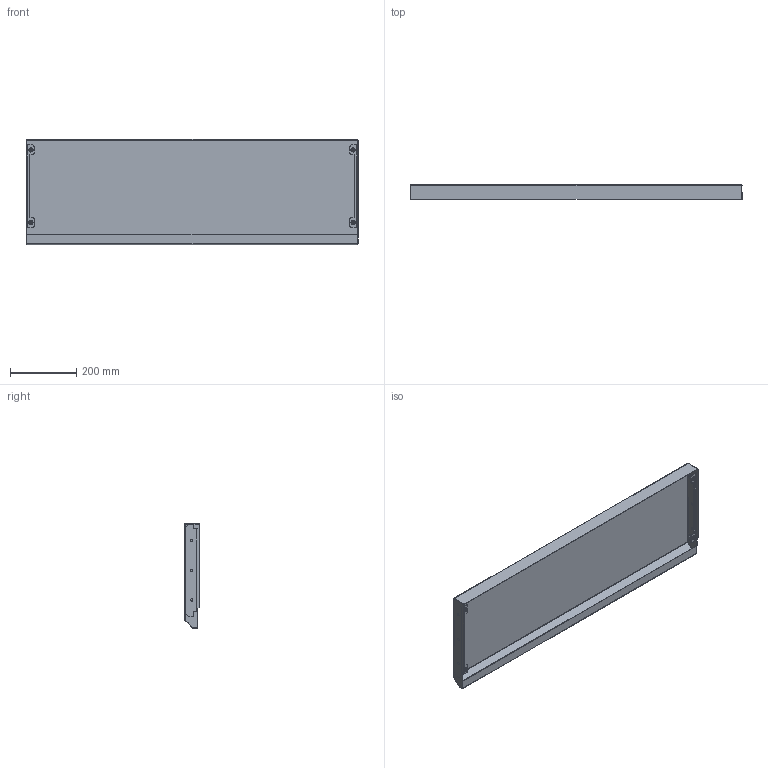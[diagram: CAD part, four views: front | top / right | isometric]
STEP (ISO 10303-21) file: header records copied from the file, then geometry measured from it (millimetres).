
FILE_DESCRIPTION (( 'STEP AP214' ), '1' );
FILE_NAME ('RKC 100.30 S ﾊ鰀靍裲 鈞隆.STEP', '2023-07-29T11:56:59', ( '' ), ( '' ), 'SwSTEP 2.0', 'SolidWorks 2019', '' );
FILE_SCHEMA (( 'AUTOMOTIVE_DESIGN' ));
Length unit declared in the file: millimetre
Products named in the file (4): Çàêëåïêà Ì6 ãàå÷íàÿ Rivkle 2335 106 0030_1,4; RKC Y.Z 01.001 S 扻踑謥獥RKC 100.30 S; RKC 100.30 S ﾊ鰀靍裲 鈞隆; RKC Z 01.002 S 扰鍙欙樥燲RKC 30
Assembly tree (7 placements, depth 2):
  RKC 100.30 S ﾊ鰀靍裲 鈞隆
    RKC Y.Z 01.001 S 扻踑謥獥RKC 100.30 S
    RKC Z 01.002 S 扰鍙欙樥燲RKC 30  x2
    Çàêëåïêà Ì6 ãàå÷íàÿ Rivkle 2335 106 0030_1,4  x4
Bounding box: 1005 x 45 x 318 mm (x, y, z)
Volume: 699978.6 mm3; surface area: 939555 mm2
Topology: 7 solids, 7 shells, 684 faces, 1658 edges, 1004 vertices
Faces by surface type: cylinder 218, plane 200, bspline 162, torus 64, sphere 24, cone 16
Entity records: 10696 total; most frequent: CARTESIAN_POINT 3726, ORIENTED_EDGE 1484, DIRECTION 1358, EDGE_CURVE 742, AXIS2_PLACEMENT_3D 508, VERTEX_POINT 456, LINE 342, VECTOR 342
